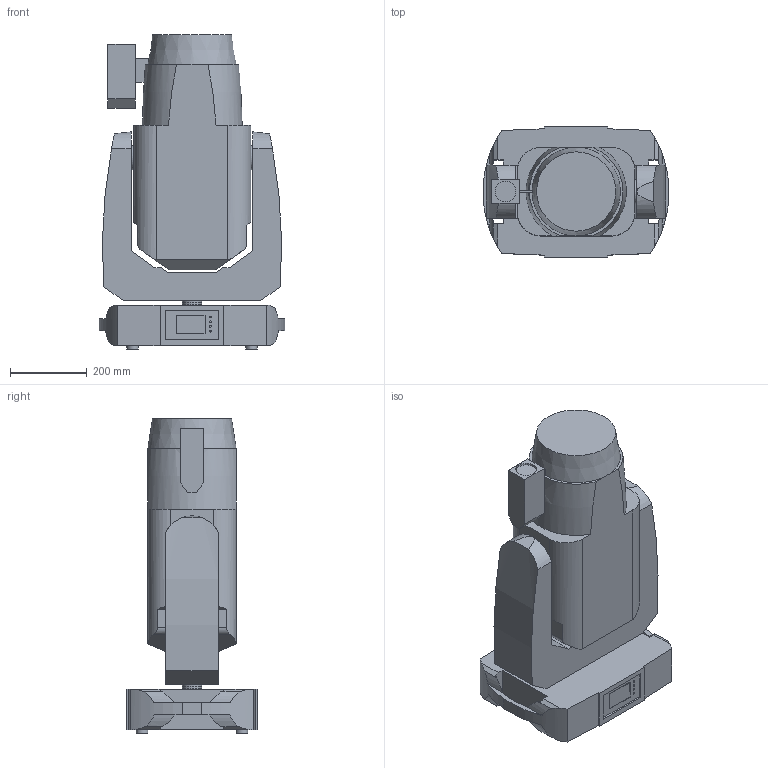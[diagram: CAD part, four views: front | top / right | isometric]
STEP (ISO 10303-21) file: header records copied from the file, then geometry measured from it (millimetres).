
FILE_DESCRIPTION(/* description */ ('Unknown'),/* implementation_level */ '2;1');
FILE_NAME(/* name */ '3D_BMFL_FollowSpot',/* time_stamp */ '2020-11-06T10:47:30+01:00',/* author */ ('Ing.Rostislav HĂˇba'),/* organization */ ('ROBE lighting'),/* preprocessor_version */ 'ST-DEVELOPER v16.7',/* originating_system */ 'Solid Edge',/* authorisation */ 'Unknown');
FILE_SCHEMA (('AUTOMOTIVE_DESIGN {1 0 10303 214 3 1 1}'));
Length unit declared in the file: millimetre
Products named in the file (4): 3D_BMFL_flw; BMFL_base; BMFL_arm; BMFL_head_flw
Assembly tree (3 placements, depth 2):
  3D_BMFL_flw
    BMFL_base
    BMFL_arm
    BMFL_head_flw
Bounding box: 482.55 x 339.31 x 818.82 mm (x, y, z)
Volume: 61671293 mm3; surface area: 1708773.1 mm2
Topology: 3 solids, 3 shells, 187 faces, 455 edges, 304 vertices
Faces by surface type: plane 128, cylinder 56, torus 2, cone 1
Full cylindrical faces by diameter (mm): 4.153 x4, 10 x10, 20.926 x6, 30 x4, 34 x2, 50 x2, 53.824 x1, 63 x1
Entity records: 5533 total; most frequent: CARTESIAN_POINT 1097, DIRECTION 902, ORIENTED_EDGE 838, EDGE_CURVE 419, AXIS2_PLACEMENT_3D 326, VERTEX_POINT 299, EDGE_LOOP 254, FACE_BOUND 254
